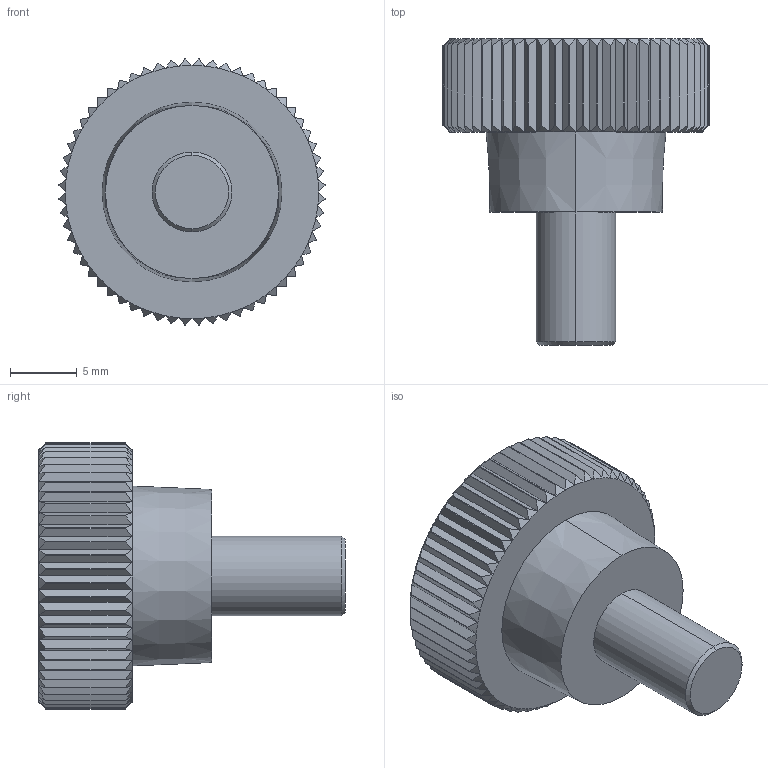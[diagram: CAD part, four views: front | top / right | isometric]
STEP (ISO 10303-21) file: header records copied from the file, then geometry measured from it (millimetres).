
FILE_DESCRIPTION (( 'STEP AP203' ), '1' );
FILE_NAME ('wn4662_20-m6x10.step', '2007-02-15T10:22:06', ( 'Magnus Fahlstrom' ), ( '' ), 'SwSTEP 2.0', 'SolidWorks 2007', '' );
FILE_SCHEMA (( 'CONFIG_CONTROL_DESIGN' ));
Length unit declared in the file: millimetre
Products named in the file (1): wn4662_20-m6x10
Bounding box: 19.98 x 23 x 19.98 mm (x, y, z)
Volume: 3133.6 mm3; surface area: 1911.3 mm2
Topology: 3 solids, 3 shells, 321 faces, 694 edges, 382 vertices
Faces by surface type: plane 129, cone 126, cylinder 66
Entity records: 8787 total; most frequent: CARTESIAN_POINT 2118, ORIENTED_EDGE 1388, DIRECTION 1360, EDGE_CURVE 694, AXIS2_PLACEMENT_3D 584, VERTEX_POINT 382, EDGE_LOOP 324, ADVANCED_FACE 321
